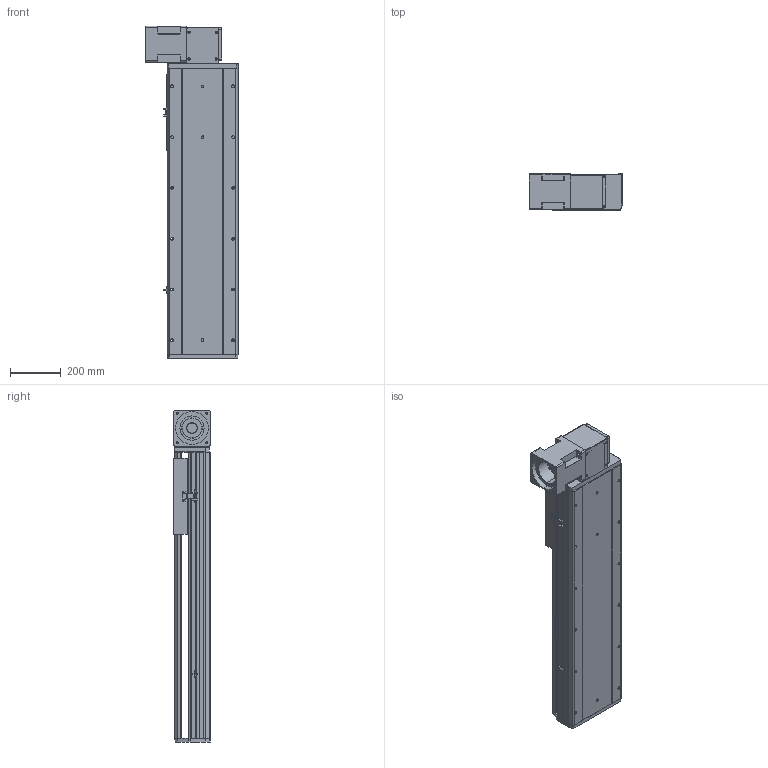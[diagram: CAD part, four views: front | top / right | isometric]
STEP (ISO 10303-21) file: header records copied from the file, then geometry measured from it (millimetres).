
FILE_DESCRIPTION (( 'STEP AP214' ), '1' );
FILE_NAME ('RTB28R-XX-700-BR-M100-XX-C4.STEP', '2025-12-22T01:08:45', ( '' ), ( '' ), 'SwSTEP 2.0', 'SolidWorks 2018', '' );
FILE_SCHEMA (( 'AUTOMOTIVE_DESIGN' ));
Length unit declared in the file: millimetre
Products named in the file (4): RTB28S-GY-004^RTB28R-XX-XX-BR-M100-XX-C4; RTB28S-GY-011^RTB28R-XX-XX-BR-M100-XX-C4; RTB28R-XX-700-BR-M100-XX-C4; RTB28S-GY-008^RTB28R-XX-XX-BR-M100-XX-C4
Assembly tree (3 placements, depth 2):
  RTB28R-XX-700-BR-M100-XX-C4
    RTB28S-GY-011^RTB28R-XX-XX-BR-M100-XX-C4
    RTB28S-GY-004^RTB28R-XX-XX-BR-M100-XX-C4
    RTB28S-GY-008^RTB28R-XX-XX-BR-M100-XX-C4
Bounding box: 370 x 145 x 1307 mm (x, y, z)
Volume: 24895309.9 mm3; surface area: 2433821.7 mm2
Topology: 3 solids, 4 shells, 968 faces, 2550 edges, 1636 vertices
Faces by surface type: plane 452, cylinder 345, bspline 87, cone 80, torus 4
Entity records: 41230 total; most frequent: CARTESIAN_POINT 10945, ORIENTED_EDGE 5036, DIRECTION 4866, EDGE_CURVE 2518, AXIS2_PLACEMENT_3D 1657, VERTEX_POINT 1636, LINE 1552, VECTOR 1552
